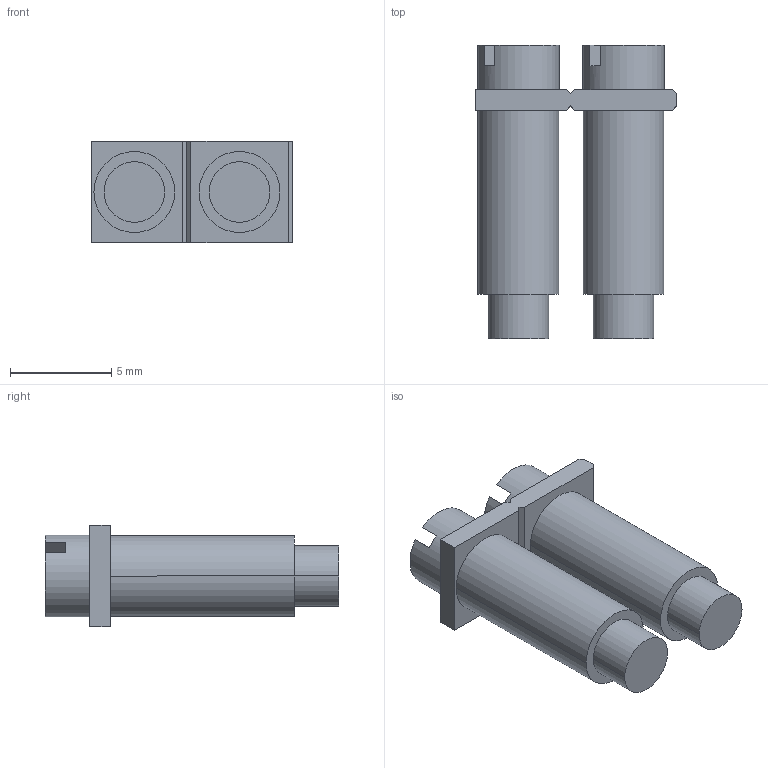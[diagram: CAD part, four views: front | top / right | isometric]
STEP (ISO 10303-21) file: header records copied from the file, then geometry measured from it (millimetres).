
FILE_DESCRIPTION( ('This file contains a STEP AP42 implementation' ,'as created by ZW3D STEP Interface translator.') ,'2;1' );
FILE_NAME( 'FBI 2-5桥接件-模型.stp' ,'231227.164258', (''), ('ZWCAD Software Co.'), 'Version 1.0', 'ZW3D to STEP translator', '' );
FILE_SCHEMA(('AUTOMOTIVE_DESIGN { 1 0 10303 214 1 1 1 1 }'));
Length unit declared in the file: millimetre
Products named in the file (2): 0; FBI 10-5 C+H-CAP桥接件-模型
Bounding box: 9.9 x 14.5 x 5 mm (x, y, z)
Volume: 359.8 mm3; surface area: 468.3 mm2
Topology: 1 solids, 1 shells, 38 faces, 90 edges, 60 vertices
Faces by surface type: plane 28, cylinder 10
Full cylindrical faces by diameter (mm): 4.05 x2
Entity records: 1170 total; most frequent: DIRECTION 196, CARTESIAN_POINT 189, ORIENTED_EDGE 180, EDGE_CURVE 90, AXIS2_PLACEMENT_3D 67, VECTOR 62, LINE 62, VERTEX_POINT 60
